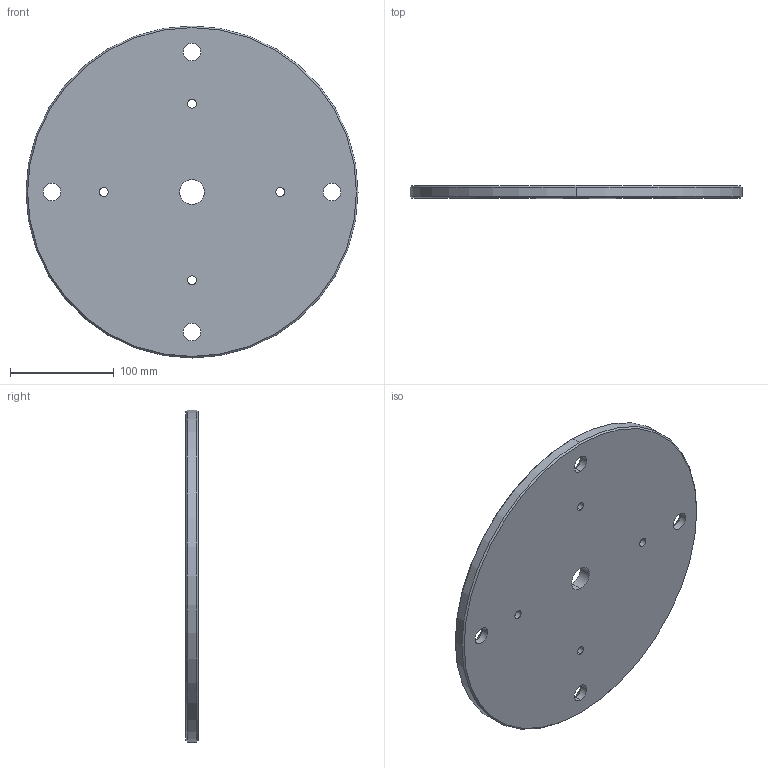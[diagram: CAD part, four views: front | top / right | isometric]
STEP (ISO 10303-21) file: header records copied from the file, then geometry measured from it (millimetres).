
FILE_DESCRIPTION (( 'STEP AP203' ), '1' );
FILE_NAME ('Surface plate.STEP', '2020-06-24T02:37:35', ( '' ), ( '' ), 'SwSTEP 2.0', 'SolidWorks 2017', '' );
FILE_SCHEMA (( 'CONFIG_CONTROL_DESIGN' ));
Length unit declared in the file: millimetre
Products named in the file (1): Surface plate
Bounding box: 320 x 12 x 320 mm (x, y, z)
Volume: 940649.3 mm3; surface area: 172179.7 mm2
Topology: 1 solids, 1 shells, 42 faces, 100 edges, 60 vertices
Faces by surface type: cylinder 20, cone 20, plane 2
Entity records: 1337 total; most frequent: DIRECTION 246, CARTESIAN_POINT 203, ORIENTED_EDGE 200, AXIS2_PLACEMENT_3D 103, EDGE_CURVE 100, VERTEX_POINT 60, EDGE_LOOP 60, CIRCLE 60
